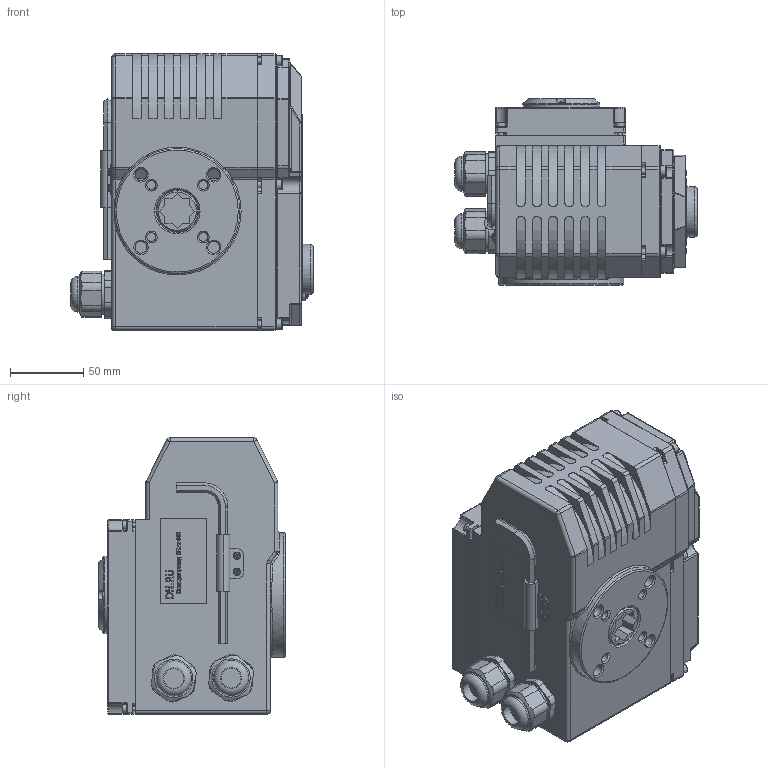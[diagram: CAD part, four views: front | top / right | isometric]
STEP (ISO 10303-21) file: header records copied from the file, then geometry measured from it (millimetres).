
FILE_DESCRIPTION(/* description */ ('D300-14483','CAx-IF Rec.Pracs.---Representation and Presentation of Product Manufacturing Information (PMI)---4.0---2014-10-13'),/* implementation_level */ '2;1');
FILE_NAME(/* name */ '',/* time_stamp */ '2026-04-01T01:20:35+03:00',/* author */ ('DN.RU'),/* organization */ ('DN.RU'),/* preprocessor_version */ 'ST-DEVELOPER v20',/* originating_system */ 'Autodesk Inventor 2025',/* authorisation */ '');
FILE_SCHEMA (('AP242_MANAGED_MODEL_BASED_3D_ENGINEERING_MIM_LF { 1 0 10303 442 1 1 4 }'));
Products named in the file (1): QT-N-010EM-O1-220VAC-У1 HARK
Bounding box: 165 x 127 x 188 mm (x, y, z)
Volume: 2372978.8 mm3; surface area: 179782 mm2
Topology: 1 solids, 1 shells, 1487 faces, 3946 edges, 2547 vertices
Faces by surface type: plane 684, cylinder 312, bspline 244, torus 112, cone 95, sphere 40
Full cylindrical faces by diameter (mm): 3 x4, 4 x6, 6 x4, 7 x6, 8 x4, 13.606 x2, 23.953 x2, 27.184 x2, 28 x1, 29 x1, 34.169 x1, 34.486 x1, 40 x1, 42.826 x1, 52 x1, 85 x1
Entity records: 51238 total; most frequent: CARTESIAN_POINT 14482, ORIENTED_EDGE 7858, DIRECTION 6559, EDGE_CURVE 3929, VERTEX_POINT 2547, AXIS2_PLACEMENT_3D 2246, LINE 2067, VECTOR 2067
